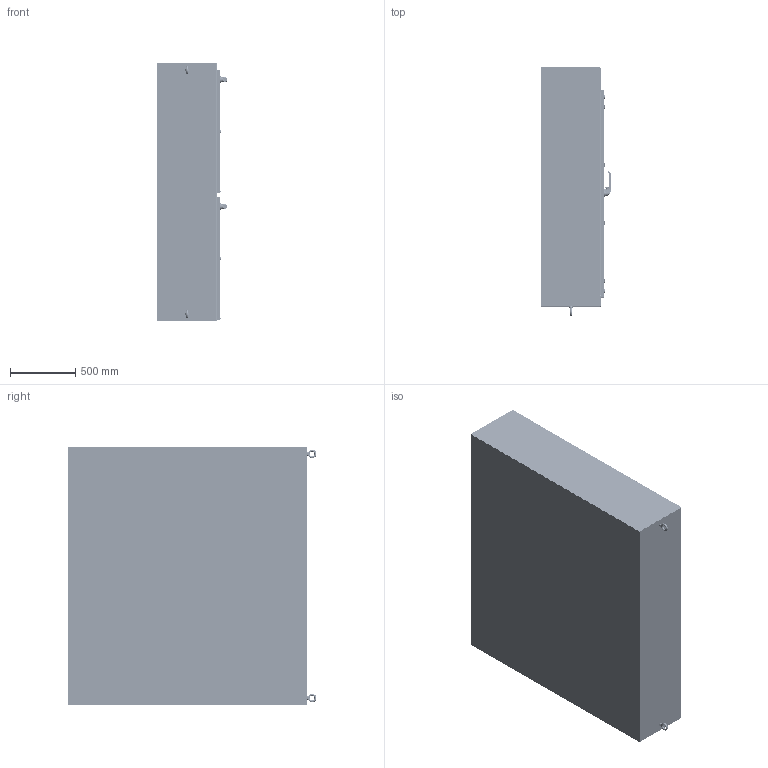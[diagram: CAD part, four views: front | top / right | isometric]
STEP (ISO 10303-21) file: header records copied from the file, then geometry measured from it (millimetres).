
FILE_DESCRIPTION((''),'2;1');
FILE_NAME('MODEL-224_ASM','2021-06-14T15:01:24',('johnh'),('SAGINAW CONTROL & ENGINEERING'),'CREO PARAMETRIC BY PTC INC, 2017260','CREO PARAMETRIC BY PTC INC, 2017260','');
FILE_SCHEMA(('AUTOMOTIVE_DESIGN { 1 0 10303 214 1 1 1 1 }'));
Length unit declared in the file: inch
Products named in the file (125): MODEL-224-TP; MODEL-224-R-SD; MODEL-224-L-SD; MODEL-224-BTM; MODEL-224-BCK; MODEL-224-BCK-LH; MODEL-224-SM-BRC; MODEL-224-M-DR; 100837; 111267; 100882; 100952_HANDLE; 100952_HANDLE_INSERT; 100952_SHAFT_CAM; 100952_ADAPTER_CAM; 100952_NUT_CAM; 100952_BASE; 100952_O-RING; 100952_WASHER_SEALING; 100952_NUT_MOUNTING_LARGE; 100952_NUT_MOUNTING_SMALL; 100952_SCREW_SMALL; 100952_INSERT; 100952_PADLOCK_CATCH; 100952_ASM; 102237; 100030; 102237_ASM; MODEL-224-ROD-UPR-MD; 128146; 128145; 128144; 102482; MODEL-224-ROD-UPR-MD_ASM; 128143; 112504; MODEL-224-ROD-LWR-MD; MODEL-224-ROD-LWR-MD_ASM; MODEL-224-PR-GSKT-M; 113885_SHAFT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
Assembly tree (268 placements, depth 4):
  MODEL-224_ASM
    MODEL-224-TP
    MODEL-224-R-SD
    MODEL-224-L-SD
    MODEL-224-BTM
    MODEL-224-BCK
    MODEL-224-BCK-LH
    MODEL-224-SM-BRC
    MODEL-224-M-DOOR-ASSY_ASM
      MODEL-224-M-DR
      100837  x7
      111267
      100882  x12
      100952_ASM
        100952_HANDLE
        100952_HANDLE_INSERT
        100952_SHAFT_CAM
        100952_ADAPTER_CAM
        100952_NUT_CAM
        100952_BASE
        100952_O-RING
        100952_WASHER_SEALING
        100952_NUT_MOUNTING_LARGE
        100952_NUT_MOUNTING_SMALL
        100952_SCREW_SMALL
        100952_INSERT
        100952_PADLOCK_CATCH
      102237_ASM
        102237
        100030  x2
      MODEL-224-ROD-UPR-MD_ASM
        MODEL-224-ROD-UPR-MD
        128146
        128145
        128144
        102482  x2
      128143  x2
      112504  x2
      MODEL-224-ROD-LWR-MD_ASM
        MODEL-224-ROD-LWR-MD
        128146
        128145
        128144
        102482  x2
      MODEL-224-PR-GSKT-M
      113885_ASM  x2
        113885_SHAFT
        113885_INSERT
        113885_CAM_30MM
        113885_NUT
        113885_SCREW
      128258_ASM  x4
        128258
        126397
      126395  x4
      102483  x4
      101383_ASM  x4
        101383
        101383-STUD
      101221  x4
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Bounding box: 534.57 x 1903.6 x 1974.85 mm (x, y, z)
Volume: 43999527.4 mm3; surface area: 31735852.4 mm2
Topology: 299 solids, 299 shells, 22611 faces, 58156 edges, 36231 vertices
Faces by surface type: plane 8443, cylinder 6102, bspline 4690, torus 1421, cone 1391, sphere 564
Entity records: 425755 total; most frequent: CARTESIAN_POINT 124881, ORIENTED_EDGE 42702, DIRECTION 40628, PRESENTATION_STYLE_ASSIGNMENT 22512, STYLED_ITEM 21863, CURVE_STYLE 21351, EDGE_CURVE 21351, AXIS2_PLACEMENT_3D 15112
